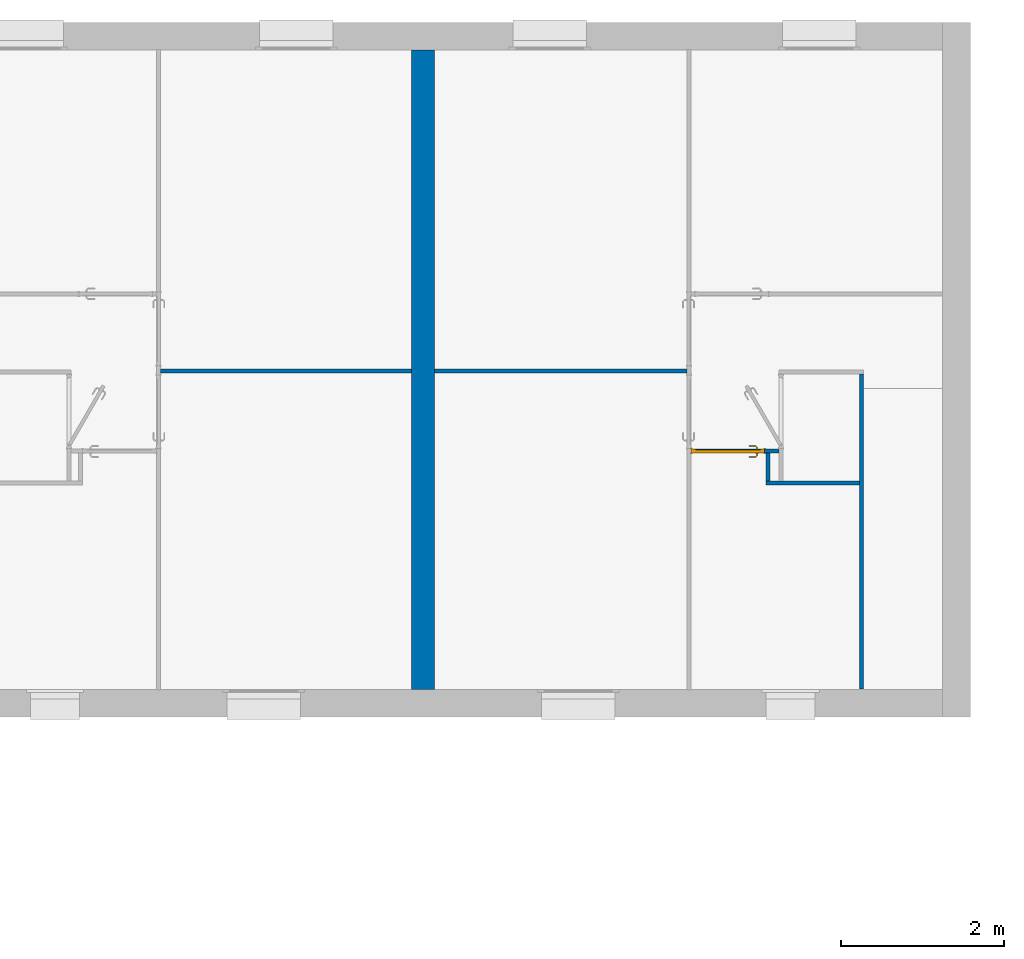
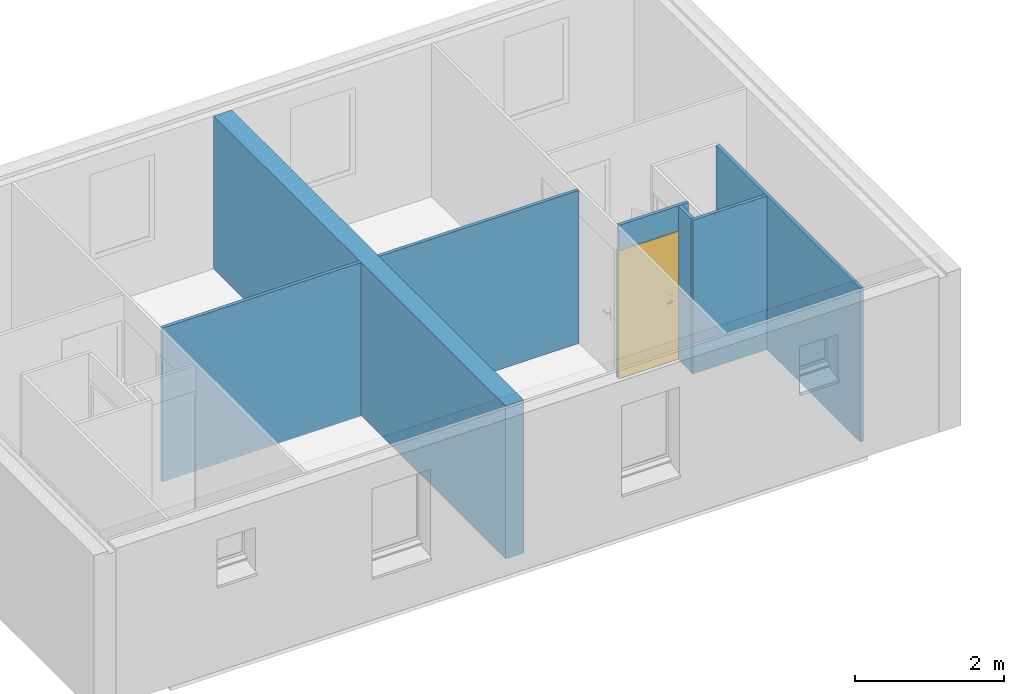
# One storey, part 7 of 13: 7 walls, 1 door, 1 opening.
"""IFC2X3 building model written with IfcOpenShell, lengths in metres."""

import ifcopenshell
import ifcopenshell.guid

model = None  # the IFC model being written
_history = None  # IfcOwnerHistory: only IFC2X3 demands one
_inside = {}  # id of a spatial element -> (the spatial element, [elements in it])
_under = {}  # id of a project, library or spatial element -> (it, [spatial elements below it])
_declared = {}  # id of a project -> (the project, [libraries it declares])
_typed = {}  # id of a type object -> (the type object, [elements of that type])
_made_of = {}  # id of a material, layer set ... -> (it, [elements and type objects made of it])


def new_model(schema):
    """Start an empty IFC model of exactly this schema.

    Asked for "IFC4X3", IfcOpenShell would pick the latest addendum, in which some entities
    have other attributes; the version numbers below select the first issue.
    IFC2X3 requires an IfcOwnerHistory on every rooted entity: one is made here for all.
    """
    global model, _history
    if schema == "IFC4X3":
        model = ifcopenshell.file(schema_version=(4, 3, 0, 0))
    else:
        model = ifcopenshell.file(schema=schema)
    _inside.clear()
    _under.clear()
    _declared.clear()
    _typed.clear()
    _made_of.clear()
    _history = None
    if model.schema == "IFC2X3":
        org = make("IfcOrganization", Name="unknown")
        user = make(
            "IfcPersonAndOrganization",
            ThePerson=make("IfcPerson", FamilyName="unknown"),
            TheOrganization=org,
        )
        app = make(
            "IfcApplication",
            ApplicationDeveloper=org,
            Version="unknown",
            ApplicationFullName="unknown",
            ApplicationIdentifier="unknown",
        )
        _history = make(
            "IfcOwnerHistory",
            OwningUser=user,
            OwningApplication=app,
            ChangeAction="ADDED",
            CreationDate=0,
        )
    return model


def make(cls, **values):
    """One entity of the class cls with the attributes given. An attribute that is None is left unset."""
    return model.create_entity(
        cls, **{name: value for name, value in values.items() if value is not None}
    )


def entity(cls, *values):
    """Any entity or typed value of the class cls, its attributes in the order of the schema. None: left unset."""
    e = model.create_entity(cls)
    for i, value in enumerate(values):
        if value is not None:
            e[i] = value
    return e


def rooted(cls, **values):
    """An entity with a GlobalId (a new one), such as an element, a storey or a relation."""
    return make(cls, GlobalId=ifcopenshell.guid.new(), OwnerHistory=_history, **values)


def si_unit(unit_type, name, prefix=None):
    """IfcSIUnit, for example si_unit("LENGTHUNIT", "METRE", prefix="MILLI")."""
    return make("IfcSIUnit", UnitType=unit_type, Prefix=prefix, Name=name)


def converted_unit(unit_type, name, factor, base, dimensions=None, offset=None):
    """IfcConversionBasedUnit, such as the inch: factor (a typed value) times the base unit."""
    return make(
        "IfcConversionBasedUnit"
        if offset is None
        else "IfcConversionBasedUnitWithOffset",
        ConversionOffset=offset,
        Dimensions=None
        if dimensions is None
        else entity("IfcDimensionalExponents", *dimensions),
        UnitType=unit_type,
        Name=name,
        ConversionFactor=make(
            "IfcMeasureWithUnit", ValueComponent=factor, UnitComponent=base
        ),
    )


def derived_unit(unit_type, elements):
    """IfcDerivedUnit: a product of units, each with its exponent."""
    return make(
        "IfcDerivedUnit",
        Elements=[
            make("IfcDerivedUnitElement", Unit=unit, Exponent=power)
            for unit, power in elements
        ],
        UnitType=unit_type,
    )


def assignment(units):
    """IfcUnitAssignment: the units of a project."""
    return None if units is None else make("IfcUnitAssignment", Units=units)


def point(xyz):
    """IfcCartesianPoint."""
    return None if xyz is None else make("IfcCartesianPoint", Coordinates=xyz)


def direction(xyz):
    """IfcDirection."""
    return None if xyz is None else make("IfcDirection", DirectionRatios=xyz)


def frame(location, z_axis=None, x_axis=None):
    """IfcAxis2Placement3D, a coordinate frame: its origin and axes. An axis left out is left unset."""
    return make(
        "IfcAxis2Placement3D",
        Location=point(location),
        Axis=direction(z_axis),
        RefDirection=direction(x_axis),
    )


def frame_2d(location, x_axis=None):
    """IfcAxis2Placement2D, a coordinate frame in the plane: its origin and x axis."""
    return make(
        "IfcAxis2Placement2D", Location=point(location), RefDirection=direction(x_axis)
    )


def origin():
    """The frame at (0, 0, 0) with its axes left unset."""
    return frame((0.0, 0.0, 0.0))


def place(relative_to, where):
    """IfcLocalPlacement: puts the frame where relative to a parent placement (None: the world)."""
    return make(
        "IfcLocalPlacement", PlacementRelTo=relative_to, RelativePlacement=where
    )


def context(
    kind, dimensions, precision=None, world=None, true_north=None, identifier=None
):
    """IfcGeometricRepresentationContext, for example the 3D "Model" context."""
    return make(
        "IfcGeometricRepresentationContext",
        ContextIdentifier=identifier,
        ContextType=kind,
        CoordinateSpaceDimension=dimensions,
        Precision=precision,
        WorldCoordinateSystem=world,
        TrueNorth=true_north,
    )


def subcontext(parent, identifier, kind, view, scale=None):
    """IfcGeometricRepresentationSubContext, for example "Body" below "Model"."""
    return make(
        "IfcGeometricRepresentationSubContext",
        ContextIdentifier=identifier,
        ContextType=kind,
        ParentContext=parent,
        TargetScale=scale,
        TargetView=view,
    )


def project(units=None, contexts=None):
    """IfcProject with its units and contexts."""
    return rooted(
        "IfcProject",
        Name="project",
        RepresentationContexts=contexts,
        UnitsInContext=assignment(units),
    )


def spatial(cls, under=None, at=None, **own):
    """A site, building, storey or space (cls), placed at a placement, below another one or the project."""
    s = rooted(cls, ObjectPlacement=at, **own)
    if under is not None:
        _under.setdefault(under.id(), (under, []))[1].append(s)
    return s


def profile(cls, at=None, kind="AREA", **sizes):
    """A parametric profile (cls). Its sizes go by their IFC names, for example OverallWidth=200.0."""
    return make(cls, ProfileType=kind, Position=at, **sizes)


def rectangle(**sizes):
    """IfcRectangleProfileDef."""
    return profile("IfcRectangleProfileDef", **sizes)


def extrude(swept, where, along, depth):
    """IfcExtrudedAreaSolid: the profile swept, set in the frame where, extruded along a direction by depth."""
    return make(
        "IfcExtrudedAreaSolid",
        SweptArea=swept,
        Position=where,
        ExtrudedDirection=direction(along),
        Depth=depth,
    )


def faces_of(points, faces, orient=None, outer=None):
    """IfcFace entities. A face is a list of loops; a loop is a list of indices into points, from 0.

    orient and outer hold one flag for each loop. By default every Orientation is true, the
    first loop of a face is its IfcFaceOuterBound and the others are IfcFaceBound.
    """
    made = []
    for i, loops in enumerate(faces):
        bounds = []
        for j, loop in enumerate(loops):
            is_outer = j == 0 if outer is None else outer[i][j]
            bounds.append(
                make(
                    "IfcFaceOuterBound" if is_outer else "IfcFaceBound",
                    Bound=make("IfcPolyLoop", Polygon=[points[k] for k in loop]),
                    Orientation=True if orient is None else orient[i][j],
                )
            )
        made.append(make("IfcFace", Bounds=bounds))
    return made


def faceted_brep(points, faces, orient=None, outer=None, voids=None):
    """IfcFacetedBrep: a solid bounded by flat faces; with voids (closed shells), ...WithVoids."""
    shared = [point(p) for p in points]
    hull = make("IfcClosedShell", CfsFaces=faces_of(shared, faces, orient, outer))
    if voids is None:
        return make("IfcFacetedBrep", Outer=hull)
    return make(
        "IfcFacetedBrepWithVoids",
        Outer=hull,
        Voids=[
            make(cls, CfsFaces=faces_of(shared, fs, o, b)) for cls, fs, o, b in voids
        ],
    )


def shape(context_of_items, identifier, shape_type, items):
    """IfcShapeRepresentation: the items that make up one representation, for example the "Body"."""
    return make(
        "IfcShapeRepresentation",
        ContextOfItems=context_of_items,
        RepresentationIdentifier=identifier,
        RepresentationType=shape_type,
        Items=items,
    )


def source(mapping_origin, context_of_items, identifier, shape_type, items):
    """IfcRepresentationMap: a shape defined once, which mapped items show again and again."""
    return make(
        "IfcRepresentationMap",
        MappingOrigin=mapping_origin,
        MappedRepresentation=shape(context_of_items, identifier, shape_type, items),
    )


def transform(
    local_origin,
    x_axis=None,
    y_axis=None,
    z_axis=None,
    scale=None,
    scale2=None,
    scale3=None,
    uniform=True,
):
    """IfcCartesianTransformationOperator3D, or its non-uniform kind. x_axis, y_axis, z_axis: its Axis1, 2, 3."""
    if uniform:
        return make(
            "IfcCartesianTransformationOperator3D",
            Axis1=direction(x_axis),
            Axis2=direction(y_axis),
            LocalOrigin=point(local_origin),
            Scale=scale,
            Axis3=direction(z_axis),
        )
    return make(
        "IfcCartesianTransformationOperator3DnonUniform",
        Axis1=direction(x_axis),
        Axis2=direction(y_axis),
        LocalOrigin=point(local_origin),
        Scale=scale,
        Axis3=direction(z_axis),
        Scale2=scale2,
        Scale3=scale3,
    )


def mapped(mapping_source, mapping_target):
    """IfcMappedItem: shows the shape of a source again, moved by a transform."""
    return make(
        "IfcMappedItem", MappingSource=mapping_source, MappingTarget=mapping_target
    )


def material(Name=None, Category=None):
    """IfcMaterial."""
    return make("IfcMaterial", Name=Name, Category=Category)


def material_list(materials):
    """IfcMaterialList."""
    return make("IfcMaterialList", Materials=materials)


def layer(
    of_material, thickness, ventilated=None, Name=None, Category=None, Priority=None
):
    """IfcMaterialLayer: one layer of a wall or slab, of a material (None: an air gap)."""
    return make(
        "IfcMaterialLayer",
        Material=of_material,
        LayerThickness=thickness,
        IsVentilated=ventilated,
        Name=Name,
        Category=Category,
        Priority=Priority,
    )


def layer_set(layers, Name=None):
    """IfcMaterialLayerSet."""
    return make("IfcMaterialLayerSet", MaterialLayers=layers, LayerSetName=Name)


def layer_usage(for_layer_set, set_direction, sense, offset, extent=None):
    """IfcMaterialLayerSetUsage: how a layer set lies in its element."""
    return make(
        "IfcMaterialLayerSetUsage",
        ForLayerSet=for_layer_set,
        LayerSetDirection=set_direction,
        DirectionSense=sense,
        OffsetFromReferenceLine=offset,
        ReferenceExtent=extent,
    )


def made_of(thing, what):
    """Note that an element or type object is made of a material, layer set ...; save() writes the relation."""
    if what is not None:
        _made_of.setdefault(what.id(), (what, []))[1].append(thing)
    return thing


def type_object(cls, material=None, **own):
    """A type object (cls), such as IfcWallType, which elements share."""
    return made_of(rooted(cls, **own), material)


def type_shapes(of_type, sources):
    """Give a type object the sources (RepresentationMaps) that its elements show as mapped items."""
    of_type.RepresentationMaps = sources


def element(
    cls,
    number,
    at=None,
    inside=None,
    cuts=None,
    type_object=None,
    material=None,
    context=None,
    identifier="Body",
    shape_type=None,
    held_by="IfcProductDefinitionShape",
    body=None,
    shapes=None,
    **own,
):
    """One element of the class cls, such as IfcWall. Its Tag is "e" and its number.

    at: its placement. inside: the storey or other place that contains it. cuts: it is an
    opening in that element (IfcRelVoidsElement). A single representation is given by context,
    identifier, shape_type and body (its items); several are given by shapes. held_by: the class
    of the entity that holds the representations. save() writes the other relations.
    """
    e = rooted(cls, Tag="e%d" % number, ObjectPlacement=at, **own)
    if body is not None:
        shapes = [shape(context, identifier, shape_type, body)]
    if shapes is not None:
        e.Representation = make(held_by, Representations=shapes)
    if inside is not None:
        _inside.setdefault(inside.id(), (inside, []))[1].append(e)
    if cuts is not None:
        rooted(
            "IfcRelVoidsElement", RelatingBuildingElement=cuts, RelatedOpeningElement=e
        )
    if type_object is not None:
        _typed.setdefault(type_object.id(), (type_object, []))[1].append(e)
    return made_of(e, material)


def fill(opening, filler):
    """IfcRelFillsElement: the door or window that sits in an opening."""
    return rooted(
        "IfcRelFillsElement",
        RelatingOpeningElement=opening,
        RelatedBuildingElement=filler,
    )


def aggregate(whole, parts):
    """IfcRelAggregates: a whole, such as a stair, and the parts it consists of."""
    return rooted("IfcRelAggregates", RelatingObject=whole, RelatedObjects=parts)


def save(model, path):
    """Write the relations noted so far, then the file.

    IfcRelAggregates (storeys below a building ...), IfcRelContainedInSpatialStructure (elements
    in a storey), IfcRelDefinesByType, IfcRelAssociatesMaterial and IfcRelDeclares: one each for
    every whole, place, type object, material and project.
    """
    for whole, parts in _under.values():
        aggregate(whole, parts)
    for where, things in _inside.values():
        rooted(
            "IfcRelContainedInSpatialStructure",
            RelatedElements=things,
            RelatingStructure=where,
        )
    for kind, things in _typed.values():
        rooted("IfcRelDefinesByType", RelatedObjects=things, RelatingType=kind)
    for what, things in _made_of.values():
        rooted("IfcRelAssociatesMaterial", RelatedObjects=things, RelatingMaterial=what)
    for by, libraries in _declared.values():
        rooted("IfcRelDeclares", RelatingContext=by, RelatedDefinitions=libraries)
    model.write(path)


model = new_model("IFC2X3")

# Units and contexts
model_context = context("Model", 3, precision=1e-05, world=origin(), true_north=direction((6.12303176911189e-17, 1.0)))
context_of_model = context(None, 3, precision=1e-05, world=origin(), true_north=direction((6.12303176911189e-17, 1.0)))
body_context = subcontext(model_context, "Body", "Model", "MODEL_VIEW")
ifc_project = project(units=[si_unit("LENGTHUNIT", "METRE"), si_unit("AREAUNIT", "SQUARE_METRE"), si_unit("VOLUMEUNIT", "CUBIC_METRE"), converted_unit("PLANEANGLEUNIT", "DEGREE", entity("IfcRatioMeasure", 0.0174532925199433), si_unit("PLANEANGLEUNIT", "RADIAN"), dimensions=[0, 0, 0, 0, 0, 0, 0]), si_unit("MASSUNIT", "GRAM", prefix="KILO"), si_unit("TIMEUNIT", "SECOND"), si_unit("FREQUENCYUNIT", "HERTZ"), si_unit("THERMODYNAMICTEMPERATUREUNIT", "DEGREE_CELSIUS"), derived_unit("THERMALTRANSMITTANCEUNIT", [(si_unit("MASSUNIT", "GRAM", prefix="KILO"), 1), (si_unit("THERMODYNAMICTEMPERATUREUNIT", "KELVIN"), -1), (si_unit("TIMEUNIT", "SECOND"), -3)]), derived_unit("VOLUMETRICFLOWRATEUNIT", [(si_unit("LENGTHUNIT", "METRE"), 3), (si_unit("TIMEUNIT", "SECOND"), -1)]), si_unit("ELECTRICCURRENTUNIT", "AMPERE"), si_unit("ELECTRICVOLTAGEUNIT", "VOLT"), si_unit("POWERUNIT", "WATT"), si_unit("FORCEUNIT", "NEWTON", prefix="KILO"), si_unit("ILLUMINANCEUNIT", "LUX"), si_unit("LUMINOUSFLUXUNIT", "LUMEN"), si_unit("LUMINOUSINTENSITYUNIT", "CANDELA"), derived_unit("USERDEFINED", [(si_unit("MASSUNIT", "GRAM", prefix="KILO"), -1), (si_unit("LENGTHUNIT", "METRE"), -2), (si_unit("TIMEUNIT", "SECOND"), 3), (si_unit("LUMINOUSFLUXUNIT", "LUMEN"), 1)]), derived_unit("LINEARVELOCITYUNIT", [(si_unit("LENGTHUNIT", "METRE"), 1), (si_unit("TIMEUNIT", "SECOND"), -1)]), si_unit("PRESSUREUNIT", "PASCAL"), derived_unit("USERDEFINED", [(si_unit("LENGTHUNIT", "METRE"), -2), (si_unit("MASSUNIT", "GRAM", prefix="KILO"), 1), (si_unit("TIMEUNIT", "SECOND"), -2)])], contexts=[model_context, context_of_model])

# Site, building, storey
site_placement = place(None, origin())
site = spatial("IfcSite", under=ifc_project, at=site_placement, Name="Surface", CompositionType="ELEMENT")
building_placement = place(site_placement, origin())
building = spatial("IfcBuilding", under=site, at=building_placement, CompositionType="ELEMENT")
storey_placement = place(building_placement, frame((0.0, 0.0, 2.74)))
storey = spatial("IfcBuildingStorey", under=building, at=storey_placement, Name="Plan étage", CompositionType="ELEMENT", Elevation=2.74)

# Walls
ifc_material_1 = material(Name="Maçonnerie - Isolant(1)")
ifc_layer_1 = layer(ifc_material_1, 0.05)
ifc_layer_set_1 = layer_set([ifc_layer_1], Name="Mur de base:Int. plâtre 50 mm")
ifc_layer_usage_1 = layer_usage(ifc_layer_set_1, "AXIS2", "NEGATIVE", 0.025)
wall_type_1 = type_object("IfcWallType", Name="Mur de base:Int. plâtre 50 mm", PredefinedType="STANDARD", material=ifc_layer_set_1)
wall_1_placement = place(storey_placement, frame((-8.14608881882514, 1.41925578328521, -0.00999999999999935)))
element("IfcWallStandardCase", 1, at=wall_1_placement, inside=storey, type_object=wall_type_1, material=ifc_layer_usage_1, Name="Mur de base:Int. plâtre 50 mm", ObjectType="Mur de base:Int. plâtre 50 mm", context=body_context, shape_type="SweptSolid", body=[
    extrude(rectangle(XDim=3.07000000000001, YDim=0.05, at=frame_2d((1.53500000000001, 0.0), x_axis=(-1.0, 0.0))), origin(), (0.0, 0.0, 1.0), 2.51),
])
ifc_layer_usage_2 = layer_usage(ifc_layer_set_1, "AXIS2", "NEGATIVE", 0.025)
wall_2_placement = place(storey_placement, frame((0.403911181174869, 0.0492557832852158, -0.00999999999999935), z_axis=(0.0, 0.0, 1.0), x_axis=(-1.0, 0.0, 0.0)))
element("IfcWallStandardCase", 2, at=wall_2_placement, inside=storey, type_object=wall_type_1, material=ifc_layer_usage_2, Name="Mur de base:Int. plâtre 50 mm", ObjectType="Mur de base:Int. plâtre 50 mm", context=body_context, shape_type="SweptSolid", body=[
    extrude(rectangle(XDim=1.14499999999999, YDim=0.05, at=frame_2d((0.572499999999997, 0.0), x_axis=(-1.0, 0.0))), origin(), (0.0, 0.0, 1.0), 2.51),
])
ifc_layer_usage_3 = layer_usage(ifc_layer_set_1, "AXIS2", "NEGATIVE", 0.025)
wall_3_placement = place(storey_placement, frame((-4.79608881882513, 1.41925578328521, 0.0)))
element("IfcWallStandardCase", 3, at=wall_3_placement, inside=storey, type_object=wall_type_1, material=ifc_layer_usage_3, Name="Mur de base:Int. plâtre 50 mm", ObjectType="Mur de base:Int. plâtre 50 mm", context=body_context, shape_type="SweptSolid", body=[
    extrude(rectangle(XDim=3.09000000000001, YDim=0.05, at=frame_2d((1.545, 0.0), x_axis=(-1.0, 0.0))), origin(), (0.0, 0.0, 1.0), 2.5),
])
ifc_layer_usage_4 = layer_usage(ifc_layer_set_1, "AXIS2", "NEGATIVE", 0.025)
wall_4_placement = place(storey_placement, frame((0.428911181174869, 1.38425578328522, -0.00999999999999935), z_axis=(0.0, 0.0, 1.0), x_axis=(0.0, -1.0, 0.0)))
element("IfcWallStandardCase", 4, at=wall_4_placement, inside=storey, type_object=wall_type_1, material=ifc_layer_usage_4, Name="Mur de base:Int. plâtre 50 mm", ObjectType="Mur de base:Int. plâtre 50 mm", context=body_context, shape_type="SweptSolid", body=[
    extrude(rectangle(XDim=3.855, YDim=0.05, at=frame_2d((1.9275, 0.0), x_axis=(-1.0, 0.0))), origin(), (0.0, 0.0, 1.0), 2.51),
])

# Wall, opening, door
ifc_layer_usage_5 = layer_usage(ifc_layer_set_1, "AXIS2", "NEGATIVE", 0.025)
wall_5_placement = place(storey_placement, frame((-1.65608881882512, 0.439255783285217, -0.00999999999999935)))
wall_5 = element("IfcWallStandardCase", 5, at=wall_5_placement, inside=storey, type_object=wall_type_1, material=ifc_layer_usage_5, Name="Mur de base:Int. plâtre 50 mm", ObjectType="Mur de base:Int. plâtre 50 mm", context=body_context, shape_type="SweptSolid", body=[
    extrude(rectangle(XDim=1.075, YDim=0.05, at=frame_2d((0.537499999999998, 0.0), x_axis=(-1.0, 0.0))), origin(), (0.0, 0.0, 1.0), 2.51),
])
opening_placement = place(wall_5_placement, frame((0.902499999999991, 0.025, 0.00999999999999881)))
opening = element("IfcOpeningElement", 6, at=opening_placement, cuts=wall_5, Name="Int. Simple:PP (0.83m x 2.04m):1", ObjectType="Opening", context=body_context, shape_type="SweptSolid", body=[
    extrude(rectangle(XDim=2.075, YDim=0.9, at=frame_2d((1.0375, 0.45), x_axis=(1.0, 0.0))), frame((0.0, 0.0, 0.0), z_axis=(0.0, -1.0, 0.0), x_axis=(0.0, 0.0, 1.0)), (0.0, 0.0, 1.0), 0.05),
])
ifc_material_2 = material(Name="Finition Peinture - Blanc satiné")
ifc_material_3 = material(Name="Bois - Panneau de porte")
ifc_material_4 = material(Name="Bois - Cadre de porte")
ifc_material_list_1 = material_list([ifc_material_2, ifc_material_3, ifc_material_4])
ifc_material_list_2 = material_list([ifc_material_2, ifc_material_3, ifc_material_4])
door_style = type_object("IfcDoorStyle", Name="PP (0.83m x 2.04m)", ConstructionType="NOTDEFINED", OperationType="SINGLE_SWING_RIGHT", ParameterTakesPrecedence=False, Sizeable=False, material=ifc_material_list_2)
shared_shape = source(origin(), body_context, "Body", "Brep", [
    faceted_brep([(0.895000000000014, -0.00500000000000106, 0.870000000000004), (0.895000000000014, -0.00500000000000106, 1.08), (0.885352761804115, -0.00500000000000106, 1.08399601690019), (0.875000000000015, -0.00500000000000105, 1.08535898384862), (0.864647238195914, -0.00500000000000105, 1.08399601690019), (0.855000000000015, -0.00500000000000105, 1.08), (0.855000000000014, -0.00500000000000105, 0.870000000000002), (0.864647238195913, -0.00500000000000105, 0.866003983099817), (0.875000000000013, -0.00500000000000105, 0.86464101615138), (0.885352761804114, -0.00500000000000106, 0.866003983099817), (0.895000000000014, 0.0, 1.08), (0.895000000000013, 0.0, 0.870000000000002), (0.885352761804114, 0.0, 0.866003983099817), (0.875000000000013, 0.0, 0.86464101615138), (0.864647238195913, 0.0, 0.866003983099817), (0.855000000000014, 0.0, 0.870000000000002), (0.855000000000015, 0.0, 1.08), (0.864647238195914, 0.0, 1.08399601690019), (0.875000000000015, 0.0, 1.08535898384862), (0.885352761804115, 0.0, 1.08399601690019)], [[[0, 1, 2, 3, 4, 5, 6, 7, 8, 9]], [[10, 11, 12, 13, 14, 15, 16, 17, 18, 19]], [[9, 12, 11, 0]], [[8, 13, 12, 9]], [[7, 14, 13, 8]], [[7, 6, 15, 14]], [[15, 6, 5, 16]], [[4, 17, 16, 5]], [[3, 18, 17, 4]], [[2, 19, 18, 3]], [[2, 1, 10, 19]], [[11, 10, 1, 0]]]),
    faceted_brep([(0.895000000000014, 0.0399999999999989, 0.870000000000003), (0.895000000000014, 0.0399999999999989, 1.08), (0.885352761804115, 0.0399999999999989, 1.08399601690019), (0.875000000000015, 0.0399999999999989, 1.08535898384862), (0.864647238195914, 0.0399999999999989, 1.08399601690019), (0.855000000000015, 0.0399999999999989, 1.08), (0.855000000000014, 0.0399999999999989, 0.870000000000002), (0.864647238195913, 0.0399999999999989, 0.866003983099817), (0.875000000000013, 0.0399999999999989, 0.86464101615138), (0.885352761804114, 0.0399999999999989, 0.866003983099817), (0.875000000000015, 0.0449999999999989, 1.08535898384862), (0.885352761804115, 0.0449999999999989, 1.08399601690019), (0.895000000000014, 0.0449999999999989, 1.08), (0.895000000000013, 0.0449999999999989, 0.870000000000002), (0.885352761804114, 0.0449999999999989, 0.866003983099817), (0.875000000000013, 0.0449999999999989, 0.86464101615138), (0.864647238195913, 0.0449999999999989, 0.866003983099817), (0.855000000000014, 0.0449999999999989, 0.870000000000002), (0.855000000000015, 0.0449999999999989, 1.08), (0.864647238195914, 0.0449999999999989, 1.08399601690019)], [[[0, 1, 2, 3, 4, 5, 6, 7, 8, 9]], [[10, 11, 12, 13, 14, 15, 16, 17, 18, 19]], [[4, 19, 18, 5]], [[3, 10, 19, 4]], [[2, 11, 10, 3]], [[2, 1, 12, 11]], [[13, 12, 1, 0]], [[9, 14, 13, 0]], [[8, 15, 14, 9]], [[7, 16, 15, 8]], [[7, 6, 17, 16]], [[17, 6, 5, 18]]]),
    faceted_brep([(0.872974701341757, -0.0050000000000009, 1.00778044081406), (0.877025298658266, -0.00500000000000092, 1.00778044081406), (0.881000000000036, -0.00500000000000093, 1.00699999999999), (0.881000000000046, -0.00500000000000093, 0.992999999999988), (0.877025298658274, -0.00500000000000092, 0.99221955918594), (0.872974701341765, -0.0050000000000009, 0.992219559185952), (0.868999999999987, -0.00500000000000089, 0.993000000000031), (0.868999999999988, -0.00500000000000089, 1.007), (0.877025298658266, -0.0310045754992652, 1.00778044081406), (0.881000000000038, -0.0326509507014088, 1.007), (0.872974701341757, -0.0293267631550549, 1.00778044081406), (0.859298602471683, -0.0430028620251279, 1.00778044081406), (0.860976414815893, -0.0470534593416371, 1.00778044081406), (0.868999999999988, -0.0276803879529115, 1.007), (0.868999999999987, -0.0276803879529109, 0.993000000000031), (0.872974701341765, -0.0293267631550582, 0.992219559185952), (0.877025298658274, -0.0310045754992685, 0.99221955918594), (0.860976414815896, -0.047053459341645, 0.99221955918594), (0.859298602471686, -0.0430028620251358, 0.992219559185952), (0.881000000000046, -0.0326509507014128, 0.992999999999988), (0.862622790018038, -0.0510281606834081, 1.007), (0.85765222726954, -0.0390281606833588, 1.007), (0.857652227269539, -0.0390281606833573, 0.993000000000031), (0.862622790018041, -0.0510281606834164, 0.992999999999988), (0.774981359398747, -0.0510281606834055, 1.007), (0.774981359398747, -0.0470534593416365, 1.00778044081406), (0.774981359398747, -0.0430028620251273, 1.00778044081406), (0.774981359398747, -0.0390281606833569, 1.00699999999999), (0.774981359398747, -0.0390281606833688, 0.993000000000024), (0.774981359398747, -0.0430028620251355, 0.992219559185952), (0.774981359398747, -0.0470534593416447, 0.99221955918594), (0.774981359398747, -0.0510281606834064, 0.992999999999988), (0.81713998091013, -0.045028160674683, 1.0078786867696), (0.822692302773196, -0.051028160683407, 1.007), (0.816316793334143, -0.039028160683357, 1.007), (0.816316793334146, -0.0390281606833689, 0.993000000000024), (0.817139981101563, -0.0450281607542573, 0.992121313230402), (0.822692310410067, -0.0510281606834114, 0.992999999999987)], [[[0, 1, 2, 3, 4, 5, 6, 7]], [[2, 1, 8, 9]], [[1, 0, 10, 11, 12, 8]], [[0, 7, 13, 10]], [[14, 13, 7, 6]], [[5, 15, 14, 6]], [[5, 4, 16, 17, 18, 15]], [[3, 19, 16, 4]], [[9, 19, 3, 2]], [[9, 8, 12, 20]], [[10, 13, 21, 11]], [[22, 21, 13, 14]], [[14, 15, 18, 22]], [[16, 19, 23, 17]], [[20, 23, 19, 9]], [[24, 25, 26, 27, 28, 29, 30, 31]], [[32, 25, 33]], [[33, 25, 24]], [[33, 20, 12]], [[11, 34, 32]], [[34, 11, 21]], [[27, 26, 34]], [[32, 26, 25]], [[32, 34, 26]], [[32, 33, 12]], [[11, 32, 12]], [[21, 22, 35, 28, 27, 34]], [[36, 29, 35]], [[30, 36, 37]], [[18, 35, 22]], [[29, 28, 35]], [[30, 37, 31]], [[37, 17, 23]], [[36, 17, 37]], [[36, 18, 17]], [[36, 35, 18]], [[29, 36, 30]], [[23, 20, 33, 24, 31, 37]]]),
    faceted_brep([(0.872974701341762, 0.0449999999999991, 0.992219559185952), (0.877025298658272, 0.0449999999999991, 0.99221955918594), (0.881000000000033, 0.044999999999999, 0.992999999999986), (0.881000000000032, 0.044999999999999, 1.007), (0.877025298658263, 0.0449999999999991, 1.00778044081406), (0.872974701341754, 0.0449999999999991, 1.00778044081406), (0.868999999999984, 0.0449999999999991, 1.007), (0.868999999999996, 0.0449999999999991, 0.993000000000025), (0.868999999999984, 0.067485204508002, 1.007), (0.868999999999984, 0.0674852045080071, 0.993000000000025), (0.872974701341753, 0.0691315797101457, 1.00778044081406), (0.877025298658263, 0.070809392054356, 1.00778044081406), (0.860838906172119, 0.0869957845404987, 1.00778044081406), (0.859161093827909, 0.0829451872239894, 1.00778044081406), (0.881000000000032, 0.0724557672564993, 1.007), (0.881000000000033, 0.0724557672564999, 0.992999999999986), (0.877025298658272, 0.0708093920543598, 0.99221955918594), (0.872974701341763, 0.0691315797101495, 0.992219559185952), (0.859161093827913, 0.0829451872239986, 0.992219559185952), (0.860838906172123, 0.0869957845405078, 0.99221955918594), (0.857514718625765, 0.0789704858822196, 1.007), (0.857514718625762, 0.0789704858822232, 0.993000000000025), (0.862485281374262, 0.0909704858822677, 1.007), (0.862485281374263, 0.0909704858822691, 0.992999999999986), (0.77495421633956, 0.0829451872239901, 1.00778044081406), (0.77495421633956, 0.0869957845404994, 1.00778044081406), (0.77495421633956, 0.0909704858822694, 1.007), (0.77495421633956, 0.0909704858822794, 0.992999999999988), (0.77495421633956, 0.086995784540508, 0.99221955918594), (0.77495421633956, 0.0829451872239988, 0.992219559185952), (0.77495421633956, 0.0789704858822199, 0.993000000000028), (0.77495421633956, 0.0789704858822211, 1.007), (0.816234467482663, 0.0789704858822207, 1.007), (0.816234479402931, 0.0789704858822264, 0.993000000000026), (0.817057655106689, 0.0849704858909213, 1.0078786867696), (0.822554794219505, 0.0909704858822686, 1.007), (0.822554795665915, 0.0909704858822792, 0.992999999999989), (0.817057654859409, 0.0849704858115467, 0.992121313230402)], [[[0, 1, 2, 3, 4, 5, 6, 7]], [[8, 9, 7, 6]], [[5, 10, 8, 6]], [[5, 4, 11, 12, 13, 10]], [[3, 14, 11, 4]], [[14, 3, 2, 15]], [[2, 1, 16, 15]], [[1, 0, 17, 18, 19, 16]], [[0, 7, 9, 17]], [[20, 21, 9, 8]], [[8, 10, 13, 20]], [[14, 22, 12, 11]], [[23, 22, 14, 15]], [[15, 16, 19, 23]], [[17, 9, 21, 18]], [[24, 25, 26, 27, 28, 29, 30, 31]], [[21, 20, 32, 31, 30, 33]], [[34, 24, 32]], [[25, 34, 35]], [[13, 32, 20]], [[24, 31, 32]], [[25, 35, 26]], [[35, 12, 22]], [[34, 12, 35]], [[34, 13, 12]], [[34, 32, 13]], [[24, 34, 25]], [[22, 23, 36, 27, 26, 35]], [[37, 28, 36]], [[36, 28, 27]], [[36, 23, 19]], [[18, 33, 37]], [[33, 18, 21]], [[30, 29, 33]], [[37, 29, 28]], [[37, 33, 29]], [[37, 36, 19]], [[18, 37, 19]]]),
    faceted_brep([(0.935000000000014, 0.04, 2.04), (0.935000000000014, 0.04, 0.0), (0.105000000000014, 0.04, 0.0), (0.105000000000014, 0.04, 2.04), (0.935000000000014, 0.0, 2.04), (0.105000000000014, 0.0, 2.04), (0.105000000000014, 0.0, 0.0), (0.935000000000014, 0.0, 0.0)], [[[0, 1, 2, 3]], [[4, 5, 6, 7]], [[3, 5, 4, 0]], [[2, 6, 5, 3]], [[1, 7, 6, 2]], [[0, 4, 7, 1]]]),
    faceted_brep([(0.970000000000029, 0.0, 0.0), (0.935000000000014, 0.0, 0.0), (0.935000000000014, 0.040000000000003, 0.0), (0.920000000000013, 0.040000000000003, 0.0), (0.920000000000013, 0.050000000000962, 0.0), (0.970000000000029, 0.050000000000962, 0.0), (0.970000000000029, 0.050000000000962, 2.07500000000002), (0.970000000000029, 0.0, 2.07500000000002), (0.920000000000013, 0.050000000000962, 2.025), (0.120000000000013, 0.050000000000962, 2.025), (0.120000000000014, 0.050000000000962, 0.0), (0.0699999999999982, 0.050000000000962, 0.0), (0.0699999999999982, 0.050000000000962, 2.07500000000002), (0.920000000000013, 0.040000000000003, 2.025), (0.935000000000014, 0.040000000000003, 2.04), (0.105000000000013, 0.040000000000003, 2.04), (0.105000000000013, 0.040000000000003, 0.0), (0.120000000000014, 0.040000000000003, 0.0), (0.120000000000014, 0.040000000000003, 2.025), (0.935000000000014, 0.0, 2.04), (0.069999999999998, 0.0, 2.07500000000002), (0.0699999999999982, 0.0, 0.0), (0.105000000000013, 0.0, 0.0), (0.105000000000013, 0.0, 2.04)], [[[0, 1, 2, 3, 4, 5]], [[5, 6, 7, 0]], [[4, 8, 9, 10, 11, 12, 6, 5]], [[3, 13, 8, 4]], [[2, 14, 15, 16, 17, 18, 13, 3]], [[1, 19, 14, 2]], [[0, 7, 20, 21, 22, 23, 19, 1]], [[12, 11, 21, 20]], [[21, 11, 10, 17, 16, 22]], [[18, 17, 10, 9]], [[23, 22, 16, 15]], [[6, 12, 20, 7]], [[13, 18, 9, 8]], [[19, 23, 15, 14]]]),
    faceted_brep([(0.955000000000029, 0.050000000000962, 0.0), (0.955000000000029, 0.055000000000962, 0.0), (0.985000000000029, 0.055000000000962, 0.0), (0.985000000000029, 0.050000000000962, 0.0), (0.985000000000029, 0.050000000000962, 2.09000000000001), (0.0550000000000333, 0.050000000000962, 2.09000000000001), (0.0550000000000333, 0.050000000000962, 0.0), (0.0850000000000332, 0.050000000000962, 0.0), (0.0850000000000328, 0.050000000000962, 2.06000000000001), (0.955000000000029, 0.050000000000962, 2.06000000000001), (0.985000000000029, 0.055000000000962, 2.09000000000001), (0.955000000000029, 0.055000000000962, 2.06000000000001), (0.0850000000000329, 0.055000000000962, 2.06000000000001), (0.0850000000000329, 0.055000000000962, 0.0), (0.055000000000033, 0.055000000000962, 0.0), (0.0550000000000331, 0.055000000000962, 2.09000000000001)], [[[0, 1, 2, 3]], [[3, 4, 5, 6, 7, 8, 9, 0]], [[2, 10, 4, 3]], [[1, 11, 12, 13, 14, 15, 10, 2]], [[0, 9, 11, 1]], [[7, 6, 14, 13]], [[8, 7, 13, 12]], [[15, 14, 6, 5]], [[10, 15, 5, 4]], [[9, 8, 12, 11]]]),
    faceted_brep([(0.985000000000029, -0.005, 0.0), (0.985000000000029, -0.005, 2.09000000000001), (0.0550000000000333, -0.005, 2.09000000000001), (0.0550000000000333, -0.005, 0.0), (0.0850000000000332, -0.005, 0.0), (0.0850000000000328, -0.005, 2.06000000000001), (0.955000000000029, -0.005, 2.06000000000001), (0.955000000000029, -0.005, 0.0), (0.985000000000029, 0.0, 0.0), (0.985000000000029, 0.0, 2.09000000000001), (0.955000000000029, 0.0, 0.0), (0.955000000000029, 0.0, 2.06000000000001), (0.0850000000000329, 0.0, 2.06000000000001), (0.0850000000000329, 0.0, 0.0), (0.055000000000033, 0.0, 0.0), (0.0550000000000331, 0.0, 2.09000000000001)], [[[0, 1, 2, 3, 4, 5, 6, 7]], [[8, 9, 1, 0]], [[10, 11, 12, 13, 14, 15, 9, 8]], [[7, 6, 11, 10]], [[5, 4, 13, 12]], [[15, 14, 3, 2]], [[9, 15, 2, 1]], [[6, 5, 12, 11]], [[4, 3, 14, 13]], [[7, 10, 8, 0]]]),
])
type_shapes(door_style, [shared_shape])
door_placement = place(opening_placement, frame((-0.970000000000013, -0.05, 0.0)))
door = element("IfcDoor", 7, at=door_placement, inside=storey, type_object=door_style, material=ifc_material_list_1, Name="Int. Simple:PP (0.83m x 2.04m)", ObjectType="PP (0.83m x 2.04m)", OverallHeight=2.075, OverallWidth=0.9, context=body_context, shape_type="MappedRepresentation", body=[
    mapped(shared_shape, transform((0.0, 0.0, 0.0), scale=1.0)),
])
fill(opening, door)

# Walls
ifc_layer_usage_6 = layer_usage(ifc_layer_set_1, "AXIS2", "NEGATIVE", 0.025)
wall_6_placement = place(storey_placement, frame((-0.716088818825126, 0.0742557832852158, -0.00999999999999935), z_axis=(0.0, 0.0, 1.0), x_axis=(0.0, 1.0, 0.0)))
element("IfcWallStandardCase", 8, at=wall_6_placement, inside=storey, type_object=wall_type_1, material=ifc_layer_usage_6, Name="Mur de base:Int. plâtre 50 mm", ObjectType="Mur de base:Int. plâtre 50 mm", context=body_context, shape_type="SweptSolid", body=[
    extrude(rectangle(XDim=0.340000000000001, YDim=0.05, at=frame_2d((0.170000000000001, 0.0), x_axis=(-1.0, 0.0))), origin(), (0.0, 0.0, 1.0), 2.51),
])
ifc_material_5 = material(Name="Maçonnerie - Isolant 1")
ifc_layer_2 = layer(ifc_material_5, 0.01)
ifc_material_6 = material(Name="Maçonnerie - Bloc de béton (2)")
ifc_layer_3 = layer(ifc_material_6, 0.2)
ifc_material_7 = material(Name="Maçonnerie - Isolant")
ifc_layer_4 = layer(ifc_material_7, 0.06)
ifc_layer_5 = layer(ifc_material_5, 0.01)
ifc_layer_set_2 = layer_set([ifc_layer_2, ifc_layer_3, ifc_layer_4, ifc_layer_5], Name="Mur de base:Mur de base Refend Ext. Parpaing 20 + Isolant 7")
ifc_layer_usage_7 = layer_usage(ifc_layer_set_2, "AXIS2", "NEGATIVE", 0.14)
wall_type_2 = type_object("IfcWallType", Name="Mur de base:Mur de base Refend Ext. Parpaing 20 + Isolant 7", PredefinedType="STANDARD", material=ifc_layer_set_2)
wall_7_placement = place(storey_placement, frame((-4.93608881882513, 5.34425578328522, 0.0), z_axis=(0.0, 0.0, 1.0), x_axis=(0.0, -1.0, 0.0)))
element("IfcWallStandardCase", 9, at=wall_7_placement, inside=storey, type_object=wall_type_2, material=ifc_layer_usage_7, Name="Mur de base:Mur de base Refend Ext. Parpaing 20 + Isolant 7", ObjectType="Mur de base:Mur de base Refend Ext. Parpaing 20 + Isolant 7", context=body_context, shape_type="SweptSolid", body=[
    extrude(rectangle(XDim=7.82000000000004, YDim=0.28, at=frame_2d((3.91000000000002, 2.77555756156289e-16), x_axis=(-1.0, 0.0))), origin(), (0.0, 0.0, 1.0), 2.5),
])

save(model, "model.ifc")
